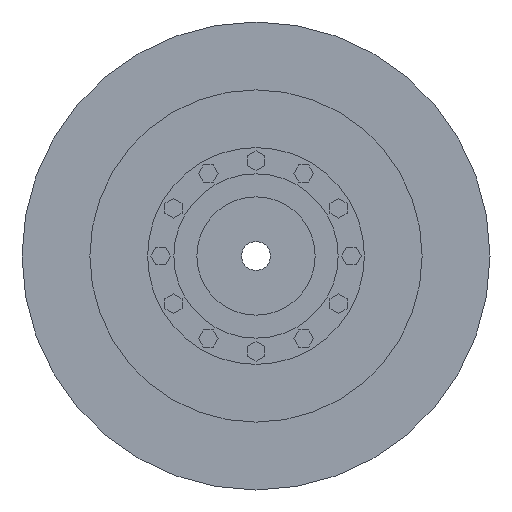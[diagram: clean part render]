
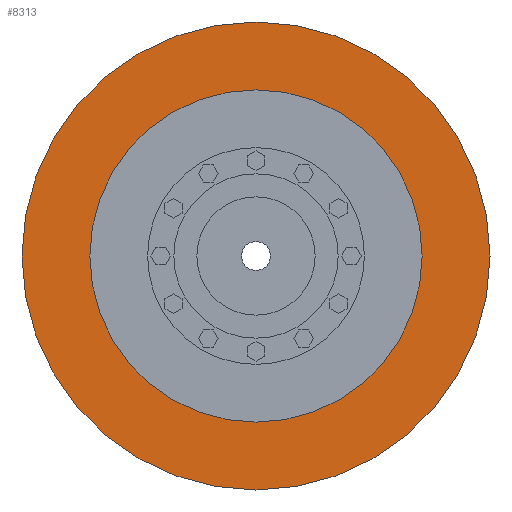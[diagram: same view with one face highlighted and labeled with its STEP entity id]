
A CAD part, left-side view. The second image highlights one B-rep face of the part: STEP entity #8313.
In plain terms, the highlighted planar face has unit normal (-1, 0, 0).
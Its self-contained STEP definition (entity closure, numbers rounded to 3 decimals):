
#8110=CARTESIAN_POINT('',(-49.,0.,0.));
#8111=DIRECTION('',(-1.,0.,0.));
#8112=DIRECTION('',(0.,1.,0.));
#8113=AXIS2_PLACEMENT_3D('',#8110,#8111,#8112);
#8115=CARTESIAN_POINT('',(-49.,0.,0.));
#8116=DIRECTION('',(1.,0.,0.));
#8117=DIRECTION('',(0.,1.,0.));
#8118=AXIS2_PLACEMENT_3D('',#8115,#8116,#8117);
#8120=CARTESIAN_POINT('',(-49.,0.,0.));
#8121=DIRECTION('',(1.,0.,0.));
#8122=DIRECTION('',(0.,1.,0.));
#8123=AXIS2_PLACEMENT_3D('',#8120,#8121,#8122);
#8133=CARTESIAN_POINT('',(-49.,0.,0.));
#8134=DIRECTION('',(-1.,0.,0.));
#8135=DIRECTION('',(0.,1.,0.));
#8136=AXIS2_PLACEMENT_3D('',#8133,#8134,#8135);
#8156=CARTESIAN_POINT('',(-49.,126.4,0.));
#8158=VERTEX_POINT('',#8156);
#8168=CARTESIAN_POINT('',(-49.,-126.4,0.));
#8170=VERTEX_POINT('',#8168);
#8173=CARTESIAN_POINT('',(-49.,178.,0.));
#8175=VERTEX_POINT('',#8173);
#8177=CARTESIAN_POINT('',(-49.,-178.,0.));
#8179=VERTEX_POINT('',#8177);
#8298=CARTESIAN_POINT('',(-49.,0.,0.));
#8299=DIRECTION('',(1.,0.,0.));
#8300=DIRECTION('',(0.,-1.,0.));
#8301=AXIS2_PLACEMENT_3D('',#8298,#8299,#8300);
#8302=PLANE('',#8301);
#8303=ORIENTED_EDGE('',*,*,#8291,.F.);
#8304=ORIENTED_EDGE('',*,*,#8280,.T.);
#8305=EDGE_LOOP('',(#8303,#8304));
#8306=FACE_OUTER_BOUND('',#8305,.F.);
#8308=ORIENTED_EDGE('',*,*,#8307,.F.);
#8310=ORIENTED_EDGE('',*,*,#8309,.T.);
#8311=EDGE_LOOP('',(#8308,#8310));
#8312=FACE_BOUND('',#8311,.F.);
#8313=ADVANCED_FACE('',(#8306,#8312),#8302,.F.);
#8114=CIRCLE('',#8113,178.);
#8119=CIRCLE('',#8118,178.);
#8124=CIRCLE('',#8123,126.4);
#8137=CIRCLE('',#8136,126.4);
#8280=EDGE_CURVE('',#8175,#8179,#8119,.T.);
#8291=EDGE_CURVE('',#8175,#8179,#8114,.T.);
#8307=EDGE_CURVE('',#8158,#8170,#8124,.T.);
#8309=EDGE_CURVE('',#8158,#8170,#8137,.T.);
